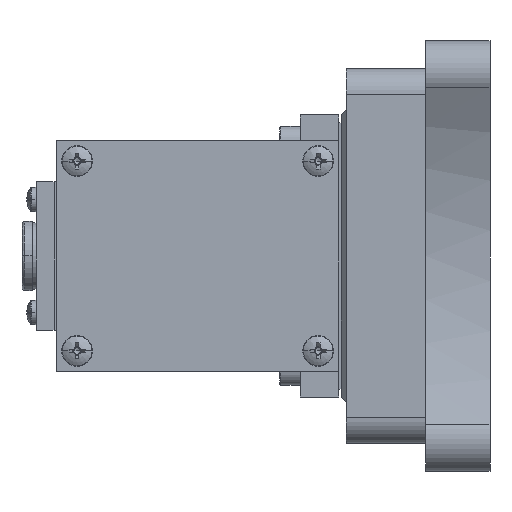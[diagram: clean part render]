
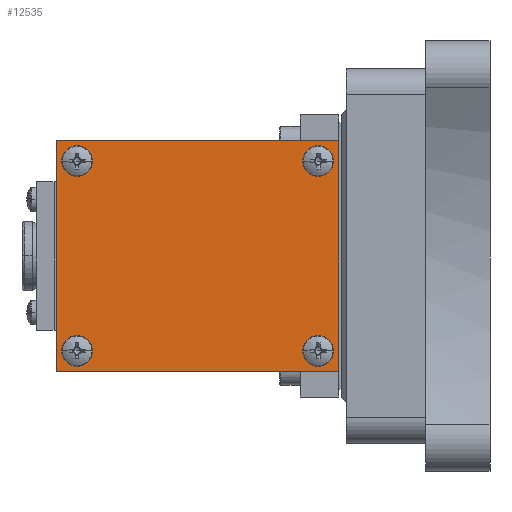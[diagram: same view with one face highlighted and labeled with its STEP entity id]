
A CAD part, left-side view. The second image highlights one B-rep face of the part: STEP entity #12535.
In plain terms, the highlighted planar face has unit normal (-1, 0, 0).
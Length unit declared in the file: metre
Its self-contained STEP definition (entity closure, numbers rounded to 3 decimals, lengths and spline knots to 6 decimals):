
#602 = EDGE_CURVE ( 'NONE', #11460, #6835, #16380, .T. ) ;
#928 = CIRCLE ( 'NONE', #7218, 0.003 ) ;
#1162 = AXIS2_PLACEMENT_3D ( 'NONE', #12403, #12520, #12539 ) ;
#1479 = VERTEX_POINT ( 'NONE', #3440 ) ;
#1688 = FACE_BOUND ( 'NONE', #6372, .T. ) ;
#1820 = CIRCLE ( 'NONE', #5679, 0.003 ) ;
#1980 = CARTESIAN_POINT ( 'NONE',  ( -0.0978, 0.056, -0.045 ) ) ;
#2344 = CARTESIAN_POINT ( 'NONE',  ( -0.0978, 0.103, 0.037 ) ) ;
#2769 = CARTESIAN_POINT ( 'NONE',  ( -0.0978, 0.056, 0.045 ) ) ;
#2787 = VERTEX_POINT ( 'NONE', #4839 ) ;
#2894 = CARTESIAN_POINT ( 'NONE',  ( -0.0978, 0.001, 0.045 ) ) ;
#3154 = CIRCLE ( 'NONE', #5708, 0.003 ) ;
#3216 = ORIENTED_EDGE ( 'NONE', *, *, #5564, .F. ) ;
#3241 = VECTOR ( 'NONE', #12229, 1. ) ;
#3422 = VECTOR ( 'NONE', #11935, 1. ) ;
#3440 = CARTESIAN_POINT ( 'NONE',  ( -0.0978, 0.103, -0.04 ) ) ;
#3454 = ORIENTED_EDGE ( 'NONE', *, *, #4277, .F. ) ;
#3610 = DIRECTION ( 'NONE',  ( 0., 0., 1. ) ) ;
#4075 = VECTOR ( 'NONE', #12134, 1. ) ;
#4277 = EDGE_CURVE ( 'NONE', #7882, #9213, #7934, .T. ) ;
#4486 = ORIENTED_EDGE ( 'NONE', *, *, #10582, .F. ) ;
#4605 = EDGE_CURVE ( 'NONE', #12202, #1479, #11225, .T. ) ;
#4641 = EDGE_LOOP ( 'NONE', ( #3216, #3454 ) ) ;
#4839 = CARTESIAN_POINT ( 'NONE',  ( -0.0978, 0.009, 0.04 ) ) ;
#5079 = FACE_BOUND ( 'NONE', #15725, .T. ) ;
#5081 = CARTESIAN_POINT ( 'NONE',  ( -0.0978, 0.103, -0.034 ) ) ;
#5389 = CARTESIAN_POINT ( 'NONE',  ( -0.0978, 0.103, 0.04 ) ) ;
#5564 = EDGE_CURVE ( 'NONE', #9213, #7882, #1820, .T. ) ;
#5664 = VERTEX_POINT ( 'NONE', #7914 ) ;
#5679 = AXIS2_PLACEMENT_3D ( 'NONE', #6531, #6550, #6590 ) ;
#5708 = AXIS2_PLACEMENT_3D ( 'NONE', #8819, #8853, #8869 ) ;
#6092 = VECTOR ( 'NONE', #7141, 1. ) ;
#6126 = AXIS2_PLACEMENT_3D ( 'NONE', #7063, #7086, #7126 ) ;
#6153 = AXIS2_PLACEMENT_3D ( 'NONE', #14135, #6247, #15443 ) ;
#6247 = DIRECTION ( 'NONE',  ( -1., 0., 0. ) ) ;
#6372 = EDGE_LOOP ( 'NONE', ( #16791, #9518 ) ) ;
#6531 = CARTESIAN_POINT ( 'NONE',  ( -0.0978, 0.009, -0.037 ) ) ;
#6550 = DIRECTION ( 'NONE',  ( -1., 0., 0. ) ) ;
#6590 = DIRECTION ( 'NONE',  ( 0., 0., 1. ) ) ;
#6835 = VERTEX_POINT ( 'NONE', #15925 ) ;
#7031 = AXIS2_PLACEMENT_3D ( 'NONE', #2344, #11492, #3610 ) ;
#7063 = CARTESIAN_POINT ( 'NONE',  ( -0.0978, 0.009, -0.037 ) ) ;
#7086 = DIRECTION ( 'NONE',  ( -1., 0., 0. ) ) ;
#7126 = DIRECTION ( 'NONE',  ( 0., 0., 1. ) ) ;
#7141 = DIRECTION ( 'NONE',  ( 0., 1., 0. ) ) ;
#7218 = AXIS2_PLACEMENT_3D ( 'NONE', #14689, #14703, #14725 ) ;
#7516 = CARTESIAN_POINT ( 'NONE',  ( -0.0978, 0.111, -0.045 ) ) ;
#7589 = LINE ( 'NONE', #12071, #4075 ) ;
#7882 = VERTEX_POINT ( 'NONE', #8481 ) ;
#7892 = EDGE_CURVE ( 'NONE', #13016, #10846, #3154, .T. ) ;
#7914 = CARTESIAN_POINT ( 'NONE',  ( -0.0978, 0.111, 0.045 ) ) ;
#7934 = CIRCLE ( 'NONE', #6126, 0.003 ) ;
#8153 = EDGE_LOOP ( 'NONE', ( #12021, #10196 ) ) ;
#8170 = VERTEX_POINT ( 'NONE', #13090 ) ;
#8481 = CARTESIAN_POINT ( 'NONE',  ( -0.0978, 0.009, -0.04 ) ) ;
#8513 = ORIENTED_EDGE ( 'NONE', *, *, #14179, .F. ) ;
#8600 = FACE_BOUND ( 'NONE', #8153, .T. ) ;
#8819 = CARTESIAN_POINT ( 'NONE',  ( -0.0978, 0.103, 0.037 ) ) ;
#8853 = DIRECTION ( 'NONE',  ( -1., 0., 0. ) ) ;
#8869 = DIRECTION ( 'NONE',  ( 0., 0., 1. ) ) ;
#9213 = VERTEX_POINT ( 'NONE', #10611 ) ;
#9299 = AXIS2_PLACEMENT_3D ( 'NONE', #11283, #11295, #11322 ) ;
#9304 = CARTESIAN_POINT ( 'NONE',  ( -0.0978, 0.009, 0.037 ) ) ;
#9518 = ORIENTED_EDGE ( 'NONE', *, *, #16290, .F. ) ;
#9549 = LINE ( 'NONE', #2769, #3422 ) ;
#9664 = DIRECTION ( 'NONE',  ( -1., 0., 0. ) ) ;
#10061 = DIRECTION ( 'NONE',  ( 0., 0., 1. ) ) ;
#10196 = ORIENTED_EDGE ( 'NONE', *, *, #7892, .F. ) ;
#10582 = EDGE_CURVE ( 'NONE', #12865, #5664, #7589, .T. ) ;
#10611 = CARTESIAN_POINT ( 'NONE',  ( -0.0978, 0.009, -0.034 ) ) ;
#10846 = VERTEX_POINT ( 'NONE', #5389 ) ;
#10916 = EDGE_CURVE ( 'NONE', #2787, #8170, #15196, .T. ) ;
#11225 = CIRCLE ( 'NONE', #9299, 0.003 ) ;
#11283 = CARTESIAN_POINT ( 'NONE',  ( -0.0978, 0.103, -0.037 ) ) ;
#11295 = DIRECTION ( 'NONE',  ( -1., 0., 0. ) ) ;
#11322 = DIRECTION ( 'NONE',  ( 0., 0., 1. ) ) ;
#11460 = VERTEX_POINT ( 'NONE', #2894 ) ;
#11492 = DIRECTION ( 'NONE',  ( -1., 0., 0. ) ) ;
#11522 = ORIENTED_EDGE ( 'NONE', *, *, #12697, .F. ) ;
#11935 = DIRECTION ( 'NONE',  ( 0., -1., 0. ) ) ;
#12021 = ORIENTED_EDGE ( 'NONE', *, *, #16287, .F. ) ;
#12071 = CARTESIAN_POINT ( 'NONE',  ( -0.0978, 0.111, 0. ) ) ;
#12134 = DIRECTION ( 'NONE',  ( 0., 0., 1. ) ) ;
#12202 = VERTEX_POINT ( 'NONE', #5081 ) ;
#12205 = PLANE ( 'NONE',  #1162 ) ;
#12229 = DIRECTION ( 'NONE',  ( 0., 0., -1. ) ) ;
#12387 = CARTESIAN_POINT ( 'NONE',  ( -0.0978, 0.001, 0. ) ) ;
#12403 = CARTESIAN_POINT ( 'NONE',  ( -0.0978, 0.001, 0.045 ) ) ;
#12520 = DIRECTION ( 'NONE',  ( 1., 0., 0. ) ) ;
#12535 = ADVANCED_FACE ( 'NONE', ( #5079, #8600, #15576, #1688, #15184 ), #12205, .F. ) ;
#12539 = DIRECTION ( 'NONE',  ( 0., 0., -1. ) ) ;
#12697 = EDGE_CURVE ( 'NONE', #1479, #12202, #928, .T. ) ;
#12865 = VERTEX_POINT ( 'NONE', #7516 ) ;
#13016 = VERTEX_POINT ( 'NONE', #14349 ) ;
#13090 = CARTESIAN_POINT ( 'NONE',  ( -0.0978, 0.009, 0.034 ) ) ;
#13538 = EDGE_LOOP ( 'NONE', ( #16695, #16006, #4486, #8513 ) ) ;
#14101 = CIRCLE ( 'NONE', #6153, 0.003 ) ;
#14135 = CARTESIAN_POINT ( 'NONE',  ( -0.0978, 0.009, 0.037 ) ) ;
#14179 = EDGE_CURVE ( 'NONE', #6835, #12865, #16575, .T. ) ;
#14349 = CARTESIAN_POINT ( 'NONE',  ( -0.0978, 0.103, 0.034 ) ) ;
#14447 = AXIS2_PLACEMENT_3D ( 'NONE', #9304, #9664, #10061 ) ;
#14689 = CARTESIAN_POINT ( 'NONE',  ( -0.0978, 0.103, -0.037 ) ) ;
#14703 = DIRECTION ( 'NONE',  ( -1., 0., 0. ) ) ;
#14725 = DIRECTION ( 'NONE',  ( 0., 0., 1. ) ) ;
#14850 = EDGE_CURVE ( 'NONE', #5664, #11460, #9549, .T. ) ;
#14883 = ORIENTED_EDGE ( 'NONE', *, *, #4605, .F. ) ;
#15184 = FACE_OUTER_BOUND ( 'NONE', #13538, .T. ) ;
#15196 = CIRCLE ( 'NONE', #14447, 0.003 ) ;
#15443 = DIRECTION ( 'NONE',  ( 0., 0., 1. ) ) ;
#15576 = FACE_BOUND ( 'NONE', #4641, .T. ) ;
#15725 = EDGE_LOOP ( 'NONE', ( #14883, #11522 ) ) ;
#15925 = CARTESIAN_POINT ( 'NONE',  ( -0.0978, 0.001, -0.045 ) ) ;
#16006 = ORIENTED_EDGE ( 'NONE', *, *, #14850, .F. ) ;
#16287 = EDGE_CURVE ( 'NONE', #10846, #13016, #16349, .T. ) ;
#16290 = EDGE_CURVE ( 'NONE', #8170, #2787, #14101, .T. ) ;
#16349 = CIRCLE ( 'NONE', #7031, 0.003 ) ;
#16380 = LINE ( 'NONE', #12387, #3241 ) ;
#16575 = LINE ( 'NONE', #1980, #6092 ) ;
#16695 = ORIENTED_EDGE ( 'NONE', *, *, #602, .F. ) ;
#16791 = ORIENTED_EDGE ( 'NONE', *, *, #10916, .F. ) ;
